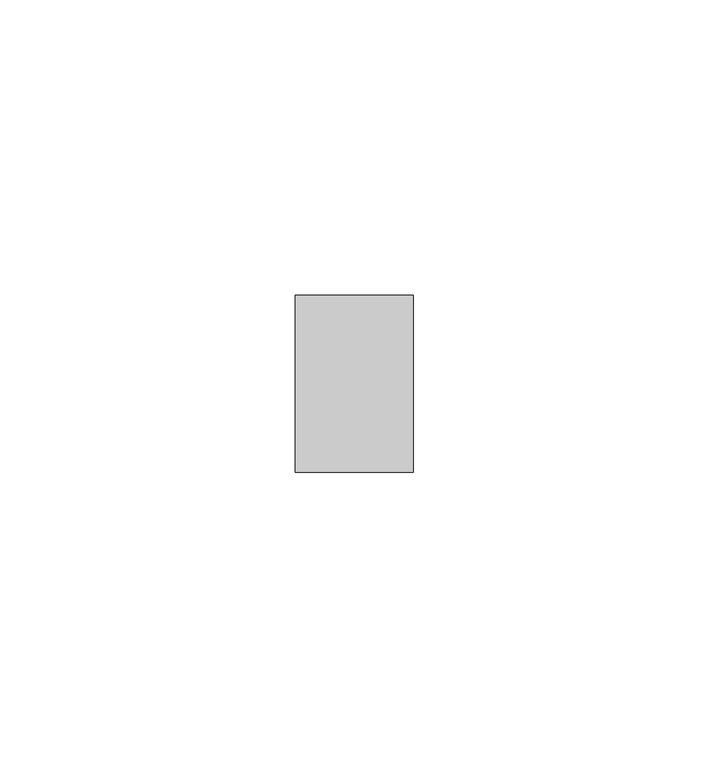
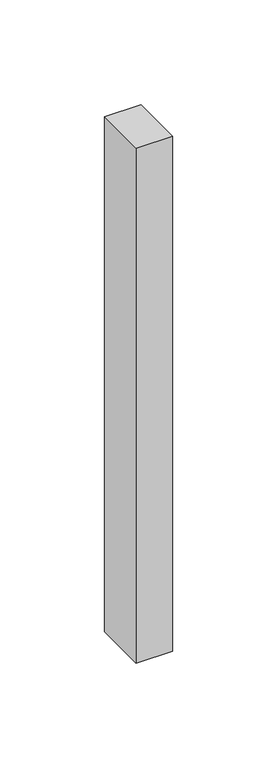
"""IFC4 building model written with IfcOpenShell, lengths in millimetres: member geometry, Прямоугольный импост : Квадрат 10 мм - Зазор между навесными плитами."""

from ifc_helpers import new_model, si_unit, frame, origin, place, context, project, spatial, polyline, outline, extrude, source, transform, mapped, element, save


def member_7635e6c3(model_context):
    return source(origin(), model_context, "Body", "SweptSolid", [
        extrude(outline(polyline([(0.0, 15.0), (0.0, -15.0), (-20.0, -15.0), (-20.0, 15.0), (0.0, 15.0)])), frame((0.0, 0.0, -300.0), z_axis=(0.0, 0.0, 1.0), x_axis=(1.0, 0.0, 0.0)), (0.0, 0.0, 1.0), 300.0),
    ])


if __name__ == "__main__":
    model = new_model("IFC4")
    model_context = context("Model", 3, world=origin())
    ifc_project = project(units=[si_unit("LENGTHUNIT", "METRE", prefix="MILLI")], contexts=[model_context])
    site = spatial("IfcSite", under=ifc_project)
    building = spatial("IfcBuilding", under=site)
    placement = place(None, origin())
    member_shape = member_7635e6c3(model_context)
    element("IfcMember", 1, ObjectType="Прямоугольный импост : Квадрат 10 мм - Зазор между навесными плитами", at=placement, inside=building, context=model_context, shape_type="MappedRepresentation", body=[
        mapped(member_shape, transform((0.0, 0.0, 0.0), x_axis=(1.0, 0.0, 0.0), y_axis=(0.0, 1.0, 0.0), z_axis=(0.0, 0.0, 1.0))),
    ])
    save(model, "model.ifc")
